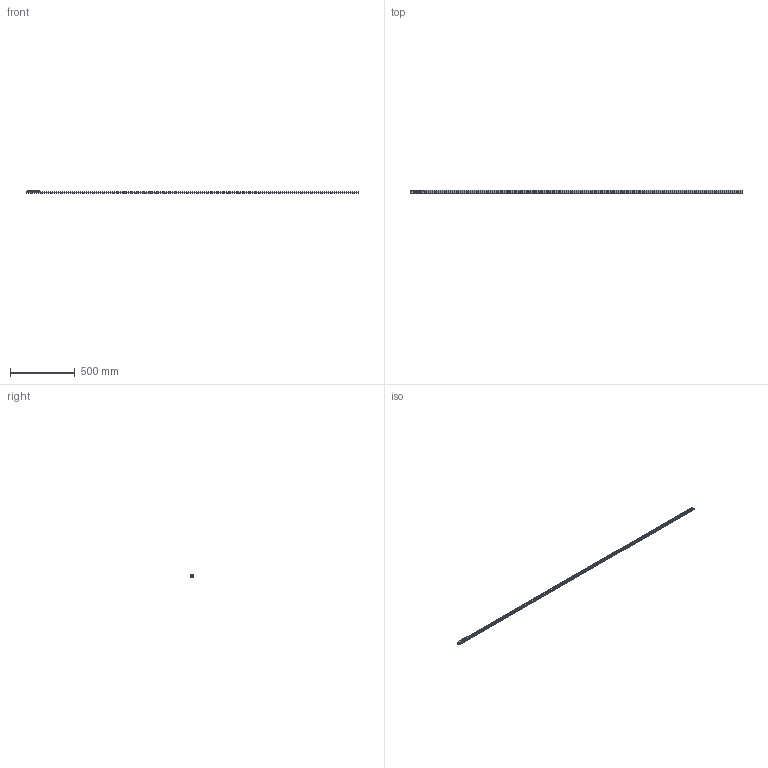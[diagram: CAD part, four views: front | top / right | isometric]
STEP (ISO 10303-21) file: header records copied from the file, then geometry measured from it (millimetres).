
FILE_DESCRIPTION( ( 'STEP AP214' ), '1' );
FILE_NAME( 'p:/temp/worker_21/temp/exporttempdir_5792_122_4s7wz/format_1/TEN26-2560-CEN26-92.stp', '2020-05-08T18:53:35', ( 'License CC BY-ND 4.0' ), ( 'CADENAS' ), ' ', 'PARTsolutions', ' ' );
FILE_SCHEMA( ( 'AUTOMOTIVE_DESIGN { 1 0 10303 214 1 1 1 1 }' ) );
Length unit declared in the file: millimetre
Products named in the file (6): TEN26-2560-CEN26-92; _TEN 26-2560; _CEN26-92_1; _RLN26(11.2_M5); _RLA26(11.2_M5); _LAN-26
Assembly tree (8 placements, depth 2):
  TEN26-2560-CEN26-92
    _TEN 26-2560
    _CEN26-92_1
    _RLN26(11.2_M5)  x2
    _RLA26(11.2_M5)
    _LAN-26  x3
Bounding box: 2560 x 25.96 x 22 mm (x, y, z)
Volume: 277649.9 mm3; surface area: 235210.3 mm2
Topology: 8 solids, 8 shells, 265 faces, 597 edges, 375 vertices
Faces by surface type: plane 131, cylinder 101, cone 24, bspline 9
Full cylindrical faces by diameter (mm): 2.5 x2, 4.134 x5, 4.5 x3, 5 x6, 6.5 x32, 9.3 x3, 11.2 x6, 11.6 x6, 15.7 x6, 16.7 x6
Entity records: 6602 total; most frequent: CARTESIAN_POINT 945, DIRECTION 904, ORIENTED_EDGE 662, AXIS2_PLACEMENT_3D 388, EDGE_LOOP 360, EDGE_CURVE 331, VERTEX_POINT 261, FACE_OUTER_BOUND 248
